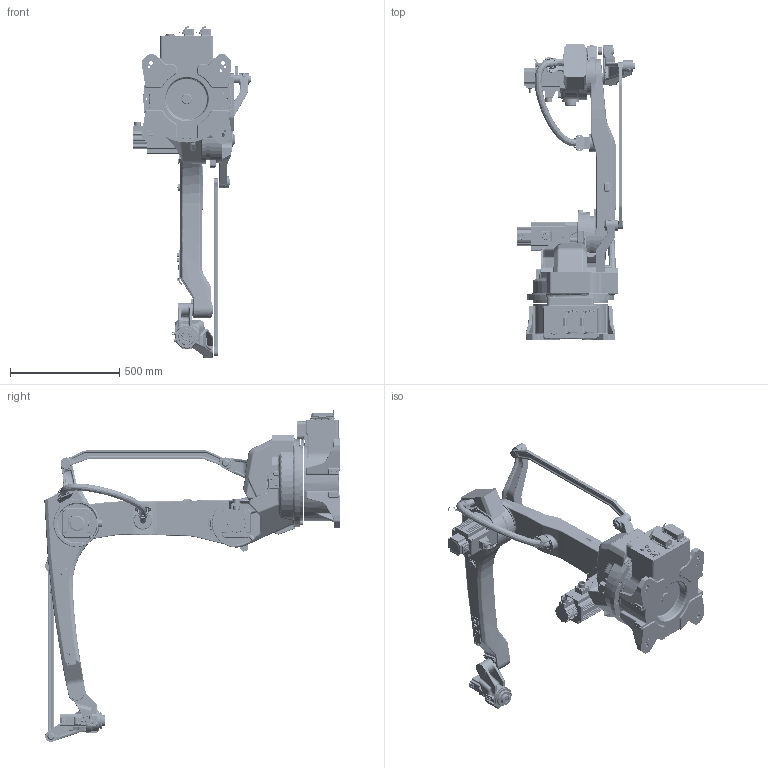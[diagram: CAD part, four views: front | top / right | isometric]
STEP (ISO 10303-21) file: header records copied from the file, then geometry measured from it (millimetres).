
FILE_DESCRIPTION((''),'2;1');
FILE_NAME('RB30-1_ASM','2020-09-24T13:42:17',('Administrator'),(''),'CREO PARAMETRIC BY PTC INC, 2018260','CREO PARAMETRIC BY PTC INC, 2018260','');
FILE_SCHEMA(('CONFIG_CONTROL_DESIGN','SHAPE_APPEARANCE_LAYERS_GROUPS'));
Products named in the file (11): RB30-1_BASE; RB30-1_JOINT1; RB30-1_JOINT2; RB30-1_JOINT3; RB30-1_JOINT4; RB30-1_WRIST; RB30-1_VERTICAL-ROD; RB30-1_ANGLE-BRACKET; RB30-1_HORIZONTAL-ROD; RB30-1_CABLE; RB30-1_ASM
Assembly tree (10 placements, depth 2):
  RB30-1_ASM
    RB30-1_BASE
    RB30-1_JOINT1
    RB30-1_JOINT2
    RB30-1_JOINT3
    RB30-1_JOINT4
    RB30-1_WRIST
    RB30-1_VERTICAL-ROD
    RB30-1_ANGLE-BRACKET
    RB30-1_HORIZONTAL-ROD
    RB30-1_CABLE
Bounding box: 539 x 1353.5 x 1521.78 mm (x, y, z)
Volume: 81152720.7 mm3; surface area: 3663404.5 mm2
Topology: 10 solids, 49 shells, 8858 faces, 22204 edges, 13618 vertices
Faces by surface type: cylinder 3478, plane 2400, bspline 1185, torus 1166, cone 528, sphere 101
Entity records: 316844 total; most frequent: CARTESIAN_POINT 107786, DIRECTION 44637, ORIENTED_EDGE 43923, EDGE_CURVE 21991, AXIS2_PLACEMENT_3D 17728, VERTEX_POINT 13618, CIRCLE 10028, EDGE_LOOP 9378
